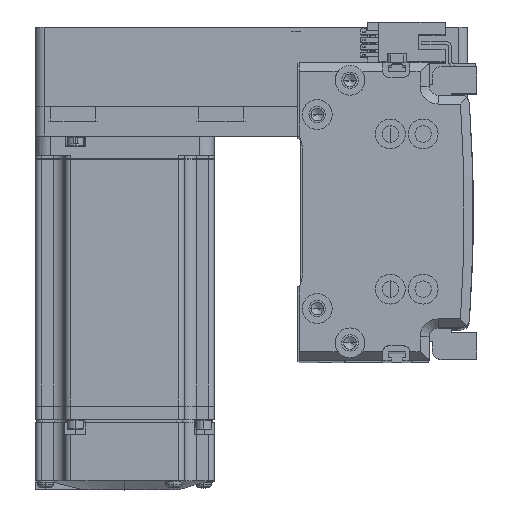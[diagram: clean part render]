
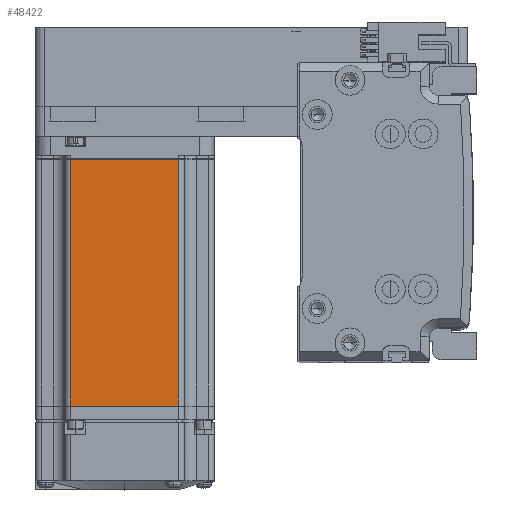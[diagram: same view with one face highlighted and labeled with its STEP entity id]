
A CAD part, top view. The second image highlights one B-rep face of the part: STEP entity #48422.
In plain terms, the highlighted planar face has unit normal (0, 0, 1).
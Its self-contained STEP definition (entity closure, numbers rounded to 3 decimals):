
#1131 = EDGE_LOOP ( 'NONE', ( #5176, #59765, #13935, #3295 ) ) ;
#3295 = ORIENTED_EDGE ( 'NONE', *, *, #18916, .T. ) ;
#3509 = CARTESIAN_POINT ( 'NONE',  ( -7.75, 18., 30. ) ) ;
#5176 = ORIENTED_EDGE ( 'NONE', *, *, #59052, .T. ) ;
#11158 = CARTESIAN_POINT ( 'NONE',  ( -6.5, -25., 30. ) ) ;
#11851 = AXIS2_PLACEMENT_3D ( 'NONE', #11158, #43504, #15823 ) ;
#13165 = CARTESIAN_POINT ( 'NONE',  ( -6.5, -18., 30. ) ) ;
#13935 = ORIENTED_EDGE ( 'NONE', *, *, #54473, .T. ) ;
#15823 = DIRECTION ( 'NONE',  ( 1., 0., 0. ) ) ;
#16167 = VERTEX_POINT ( 'NONE', #43220 ) ;
#16592 = VECTOR ( 'NONE', #31538, 1000. ) ;
#17106 = LINE ( 'NONE', #13165, #52491 ) ;
#17235 = EDGE_CURVE ( 'NONE', #51050, #37237, #44962, .T. ) ;
#18916 = EDGE_CURVE ( 'NONE', #59841, #16167, #17106, .T. ) ;
#21497 = CARTESIAN_POINT ( 'NONE',  ( -6.5, 18., 30. ) ) ;
#22123 = DIRECTION ( 'NONE',  ( 0., 1., 0. ) ) ;
#24437 = CARTESIAN_POINT ( 'NONE',  ( -90.45, 18., 30. ) ) ;
#24799 = LINE ( 'NONE', #49757, #49327 ) ;
#25714 = FACE_OUTER_BOUND ( 'NONE', #1131, .T. ) ;
#27703 = CARTESIAN_POINT ( 'NONE',  ( -90.45, -18., 30. ) ) ;
#31538 = DIRECTION ( 'NONE',  ( 0., -1., 0. ) ) ;
#36169 = CARTESIAN_POINT ( 'NONE',  ( -90.45, -25., 30. ) ) ;
#37237 = VERTEX_POINT ( 'NONE', #24437 ) ;
#41158 = LINE ( 'NONE', #36169, #16592 ) ;
#43220 = CARTESIAN_POINT ( 'NONE',  ( -7.75, -18., 30. ) ) ;
#43504 = DIRECTION ( 'NONE',  ( 0., 0., 1. ) ) ;
#44962 = LINE ( 'NONE', #21497, #46412 ) ;
#46412 = VECTOR ( 'NONE', #53964, 1000. ) ;
#47930 = PLANE ( 'NONE',  #11851 ) ;
#48422 = ADVANCED_FACE ( 'NONE', ( #25714 ), #47930, .T. ) ;
#49327 = VECTOR ( 'NONE', #22123, 1000. ) ;
#49757 = CARTESIAN_POINT ( 'NONE',  ( -7.75, -25., 30. ) ) ;
#51050 = VERTEX_POINT ( 'NONE', #3509 ) ;
#52491 = VECTOR ( 'NONE', #54745, 1000. ) ;
#53964 = DIRECTION ( 'NONE',  ( -1., 0., 0. ) ) ;
#54473 = EDGE_CURVE ( 'NONE', #37237, #59841, #41158, .T. ) ;
#54745 = DIRECTION ( 'NONE',  ( 1., 0., 0. ) ) ;
#59052 = EDGE_CURVE ( 'NONE', #16167, #51050, #24799, .T. ) ;
#59765 = ORIENTED_EDGE ( 'NONE', *, *, #17235, .T. ) ;
#59841 = VERTEX_POINT ( 'NONE', #27703 ) ;
